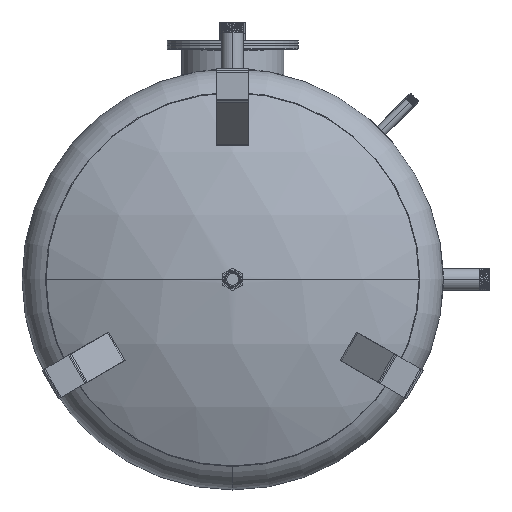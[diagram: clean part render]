
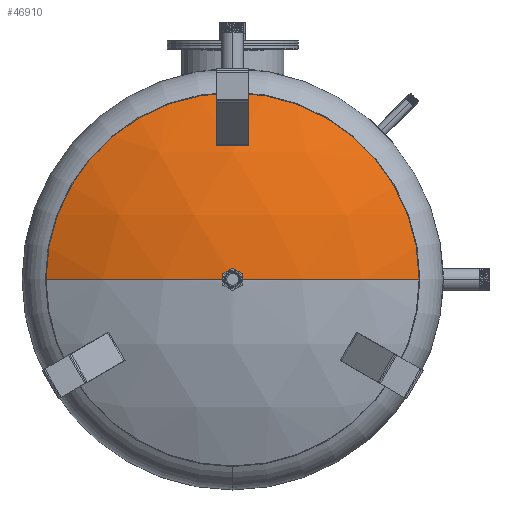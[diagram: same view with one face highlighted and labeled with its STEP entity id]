
A CAD part, front view. The second image highlights one B-rep face of the part: STEP entity #46910.
In plain terms, the highlighted spherical face has radius 900 mm.
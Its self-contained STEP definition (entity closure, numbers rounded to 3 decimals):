
#4758 = VERTEX_POINT ( 'NONE', #475719 ) ;
#46910 = ADVANCED_FACE ( 'NONE', ( #436292 ), #240379, .T. ) ;
#51000 = AXIS2_PLACEMENT_3D ( 'NONE', #441969, #253515, #97779 ) ;
#55441 = ORIENTED_EDGE ( 'NONE', *, *, #412449, .F. ) ;
#72961 = CARTESIAN_POINT ( 'NONE',  ( 0., 204.867, -15.5 ) ) ;
#76704 = DIRECTION ( 'NONE',  ( 0., 0., -1. ) ) ;
#78423 = EDGE_CURVE ( 'NONE', #152882, #139572, #106660, .T. ) ;
#94682 = EDGE_CURVE ( 'NONE', #177798, #139572, #267614, .T. ) ;
#97779 = DIRECTION ( 'NONE',  ( 0., 0., -1. ) ) ;
#99857 = VERTEX_POINT ( 'NONE', #193626 ) ;
#105831 = EDGE_LOOP ( 'NONE', ( #55441, #193765, #392921, #336660, #429404, #238979 ) ) ;
#106660 = CIRCLE ( 'NONE', #290981, 900. ) ;
#113940 = VERTEX_POINT ( 'NONE', #72961 ) ;
#129774 = DIRECTION ( 'NONE',  ( 1., 0., 0. ) ) ;
#139572 = VERTEX_POINT ( 'NONE', #257530 ) ;
#152882 = VERTEX_POINT ( 'NONE', #222012 ) ;
#152994 = AXIS2_PLACEMENT_3D ( 'NONE', #448214, #179422, #443258 ) ;
#177798 = VERTEX_POINT ( 'NONE', #488170 ) ;
#179422 = DIRECTION ( 'NONE',  ( 0., 1., 0. ) ) ;
#185533 = EDGE_CURVE ( 'NONE', #152882, #113940, #209325, .T. ) ;
#193626 = CARTESIAN_POINT ( 'NONE',  ( -15.5, 204.867, 0. ) ) ;
#193765 = ORIENTED_EDGE ( 'NONE', *, *, #449889, .F. ) ;
#198371 = AXIS2_PLACEMENT_3D ( 'NONE', #320742, #473975, #129774 ) ;
#200890 = CARTESIAN_POINT ( 'NONE',  ( 0., -695., 0. ) ) ;
#209325 = CIRCLE ( 'NONE', #152994, 15.5 ) ;
#219657 = CARTESIAN_POINT ( 'NONE',  ( 0., 111.226, 0. ) ) ;
#222012 = CARTESIAN_POINT ( 'NONE',  ( 15.5, 204.867, 0. ) ) ;
#238979 = ORIENTED_EDGE ( 'NONE', *, *, #436612, .F. ) ;
#240379 = SPHERICAL_SURFACE ( 'NONE', #198371, 900. ) ;
#253515 = DIRECTION ( 'NONE',  ( 0., -1., 0. ) ) ;
#257530 = CARTESIAN_POINT ( 'NONE',  ( 400., 111.226, 0. ) ) ;
#259821 = DIRECTION ( 'NONE',  ( 0., 0., -1. ) ) ;
#267614 = CIRCLE ( 'NONE', #51000, 400. ) ;
#272484 = AXIS2_PLACEMENT_3D ( 'NONE', #496314, #275103, #76704 ) ;
#275103 = DIRECTION ( 'NONE',  ( 0., 1., 0. ) ) ;
#279989 = CIRCLE ( 'NONE', #344196, 400. ) ;
#290981 = AXIS2_PLACEMENT_3D ( 'NONE', #293094, #436432, #323364 ) ;
#293094 = CARTESIAN_POINT ( 'NONE',  ( 0., -695., 0. ) ) ;
#304897 = DIRECTION ( 'NONE',  ( 0., -1., 0. ) ) ;
#320742 = CARTESIAN_POINT ( 'NONE',  ( 0., -695., 0. ) ) ;
#323364 = DIRECTION ( 'NONE',  ( -1., 0., 0. ) ) ;
#328116 = CIRCLE ( 'NONE', #392298, 900. ) ;
#336660 = ORIENTED_EDGE ( 'NONE', *, *, #78423, .T. ) ;
#344196 = AXIS2_PLACEMENT_3D ( 'NONE', #219657, #304897, #259821 ) ;
#392298 = AXIS2_PLACEMENT_3D ( 'NONE', #200890, #399259, #434465 ) ;
#392921 = ORIENTED_EDGE ( 'NONE', *, *, #185533, .F. ) ;
#399259 = DIRECTION ( 'NONE',  ( 0., 0., 1. ) ) ;
#412449 = EDGE_CURVE ( 'NONE', #99857, #4758, #328116, .T. ) ;
#429404 = ORIENTED_EDGE ( 'NONE', *, *, #94682, .F. ) ;
#434465 = DIRECTION ( 'NONE',  ( 1., 0., 0. ) ) ;
#436292 = FACE_OUTER_BOUND ( 'NONE', #105831, .T. ) ;
#436432 = DIRECTION ( 'NONE',  ( 0., 0., -1. ) ) ;
#436612 = EDGE_CURVE ( 'NONE', #4758, #177798, #279989, .T. ) ;
#441969 = CARTESIAN_POINT ( 'NONE',  ( 0., 111.226, 0. ) ) ;
#443258 = DIRECTION ( 'NONE',  ( 0., 0., -1. ) ) ;
#448214 = CARTESIAN_POINT ( 'NONE',  ( 0., 204.867, 0. ) ) ;
#449889 = EDGE_CURVE ( 'NONE', #113940, #99857, #489145, .T. ) ;
#473975 = DIRECTION ( 'NONE',  ( 0., 0., 1. ) ) ;
#475719 = CARTESIAN_POINT ( 'NONE',  ( -400., 111.226, 0. ) ) ;
#488170 = CARTESIAN_POINT ( 'NONE',  ( 0., 111.226, -400. ) ) ;
#489145 = CIRCLE ( 'NONE', #272484, 15.5 ) ;
#496314 = CARTESIAN_POINT ( 'NONE',  ( 0., 204.867, 0. ) ) ;
